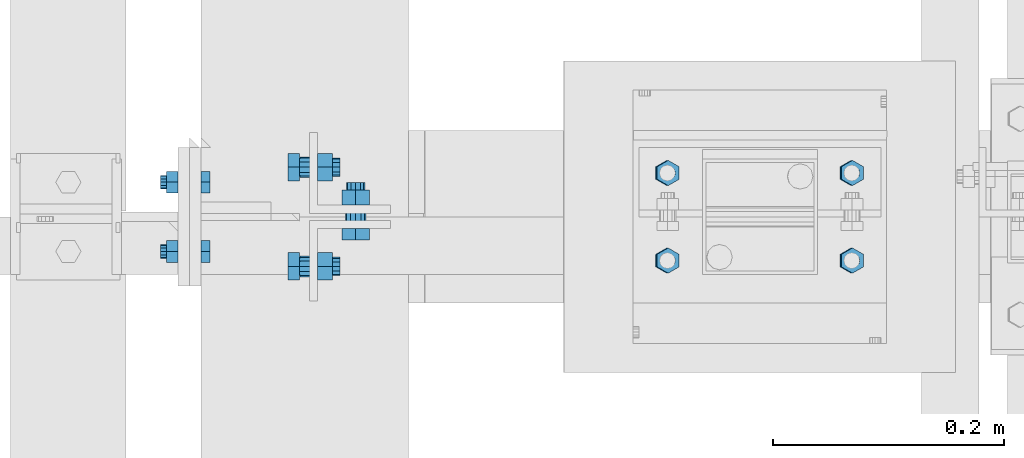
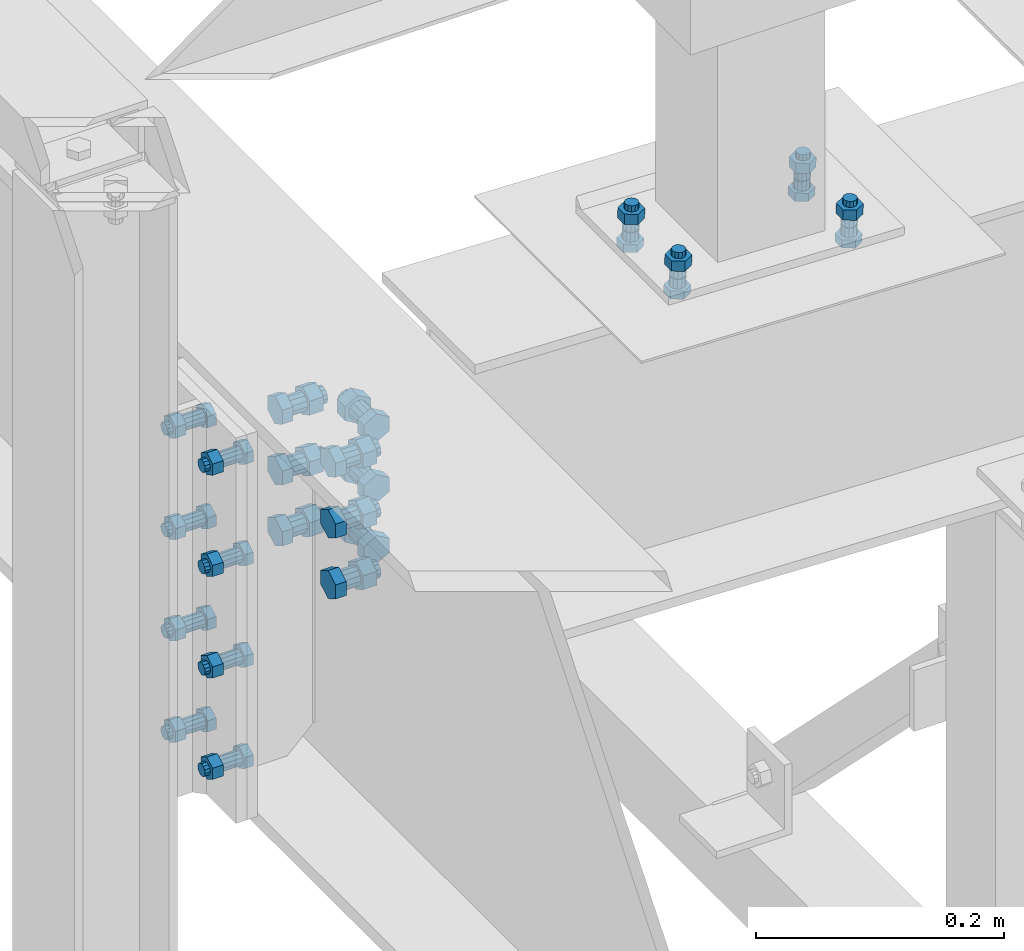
# One storey, part 59 of 3134: 5 mechanical fasteners, 4 elements without a shape of their own.
"""IFC2X3 building model written with IfcOpenShell, lengths in millimetres."""

import ifcopenshell
import ifcopenshell.guid

model = None  # the IFC model being written
_history = None  # IfcOwnerHistory: only IFC2X3 demands one
_inside = {}  # id of a spatial element -> (the spatial element, [elements in it])
_under = {}  # id of a project, library or spatial element -> (it, [spatial elements below it])
_declared = {}  # id of a project -> (the project, [libraries it declares])
_typed = {}  # id of a type object -> (the type object, [elements of that type])
_made_of = {}  # id of a material, layer set ... -> (it, [elements and type objects made of it])


def new_model(schema):
    """Start an empty IFC model of exactly this schema.

    Asked for "IFC4X3", IfcOpenShell would pick the latest addendum, in which some entities
    have other attributes; the version numbers below select the first issue.
    IFC2X3 requires an IfcOwnerHistory on every rooted entity: one is made here for all.
    """
    global model, _history
    if schema == "IFC4X3":
        model = ifcopenshell.file(schema_version=(4, 3, 0, 0))
    else:
        model = ifcopenshell.file(schema=schema)
    _inside.clear()
    _under.clear()
    _declared.clear()
    _typed.clear()
    _made_of.clear()
    _history = None
    if model.schema == "IFC2X3":
        org = make("IfcOrganization", Name="unknown")
        user = make(
            "IfcPersonAndOrganization",
            ThePerson=make("IfcPerson", FamilyName="unknown"),
            TheOrganization=org,
        )
        app = make(
            "IfcApplication",
            ApplicationDeveloper=org,
            Version="unknown",
            ApplicationFullName="unknown",
            ApplicationIdentifier="unknown",
        )
        _history = make(
            "IfcOwnerHistory",
            OwningUser=user,
            OwningApplication=app,
            ChangeAction="ADDED",
            CreationDate=0,
        )
    return model


def make(cls, **values):
    """One entity of the class cls with the attributes given. An attribute that is None is left unset."""
    return model.create_entity(
        cls, **{name: value for name, value in values.items() if value is not None}
    )


def rooted(cls, **values):
    """An entity with a GlobalId (a new one), such as an element, a storey or a relation."""
    return make(cls, GlobalId=ifcopenshell.guid.new(), OwnerHistory=_history, **values)


def si_unit(unit_type, name, prefix=None):
    """IfcSIUnit, for example si_unit("LENGTHUNIT", "METRE", prefix="MILLI")."""
    return make("IfcSIUnit", UnitType=unit_type, Prefix=prefix, Name=name)


def assignment(units):
    """IfcUnitAssignment: the units of a project."""
    return None if units is None else make("IfcUnitAssignment", Units=units)


def point(xyz):
    """IfcCartesianPoint."""
    return None if xyz is None else make("IfcCartesianPoint", Coordinates=xyz)


def direction(xyz):
    """IfcDirection."""
    return None if xyz is None else make("IfcDirection", DirectionRatios=xyz)


def frame(location, z_axis=None, x_axis=None):
    """IfcAxis2Placement3D, a coordinate frame: its origin and axes. An axis left out is left unset."""
    return make(
        "IfcAxis2Placement3D",
        Location=point(location),
        Axis=direction(z_axis),
        RefDirection=direction(x_axis),
    )


def origin_with_axes():
    """The frame at (0, 0, 0) with the z axis (0, 0, 1) and the x axis (1, 0, 0) written out."""
    return frame((0.0, 0.0, 0.0), z_axis=(0.0, 0.0, 1.0), x_axis=(1.0, 0.0, 0.0))


def place(relative_to, where):
    """IfcLocalPlacement: puts the frame where relative to a parent placement (None: the world)."""
    return make(
        "IfcLocalPlacement", PlacementRelTo=relative_to, RelativePlacement=where
    )


def context(
    kind, dimensions, precision=None, world=None, true_north=None, identifier=None
):
    """IfcGeometricRepresentationContext, for example the 3D "Model" context."""
    return make(
        "IfcGeometricRepresentationContext",
        ContextIdentifier=identifier,
        ContextType=kind,
        CoordinateSpaceDimension=dimensions,
        Precision=precision,
        WorldCoordinateSystem=world,
        TrueNorth=true_north,
    )


def subcontext(parent, identifier, kind, view, scale=None):
    """IfcGeometricRepresentationSubContext, for example "Body" below "Model"."""
    return make(
        "IfcGeometricRepresentationSubContext",
        ContextIdentifier=identifier,
        ContextType=kind,
        ParentContext=parent,
        TargetScale=scale,
        TargetView=view,
    )


def project(units=None, contexts=None):
    """IfcProject with its units and contexts."""
    return rooted(
        "IfcProject",
        Name="project",
        RepresentationContexts=contexts,
        UnitsInContext=assignment(units),
    )


def spatial(cls, under=None, at=None, **own):
    """A site, building, storey or space (cls), placed at a placement, below another one or the project."""
    s = rooted(cls, ObjectPlacement=at, **own)
    if under is not None:
        _under.setdefault(under.id(), (under, []))[1].append(s)
    return s


def faces_of(points, faces, orient=None, outer=None):
    """IfcFace entities. A face is a list of loops; a loop is a list of indices into points, from 0.

    orient and outer hold one flag for each loop. By default every Orientation is true, the
    first loop of a face is its IfcFaceOuterBound and the others are IfcFaceBound.
    """
    made = []
    for i, loops in enumerate(faces):
        bounds = []
        for j, loop in enumerate(loops):
            is_outer = j == 0 if outer is None else outer[i][j]
            bounds.append(
                make(
                    "IfcFaceOuterBound" if is_outer else "IfcFaceBound",
                    Bound=make("IfcPolyLoop", Polygon=[points[k] for k in loop]),
                    Orientation=True if orient is None else orient[i][j],
                )
            )
        made.append(make("IfcFace", Bounds=bounds))
    return made


def faceted_brep(points, faces, orient=None, outer=None, voids=None):
    """IfcFacetedBrep: a solid bounded by flat faces; with voids (closed shells), ...WithVoids."""
    shared = [point(p) for p in points]
    hull = make("IfcClosedShell", CfsFaces=faces_of(shared, faces, orient, outer))
    if voids is None:
        return make("IfcFacetedBrep", Outer=hull)
    return make(
        "IfcFacetedBrepWithVoids",
        Outer=hull,
        Voids=[
            make(cls, CfsFaces=faces_of(shared, fs, o, b)) for cls, fs, o, b in voids
        ],
    )


def shape(context_of_items, identifier, shape_type, items):
    """IfcShapeRepresentation: the items that make up one representation, for example the "Body"."""
    return make(
        "IfcShapeRepresentation",
        ContextOfItems=context_of_items,
        RepresentationIdentifier=identifier,
        RepresentationType=shape_type,
        Items=items,
    )


def source(mapping_origin, context_of_items, identifier, shape_type, items):
    """IfcRepresentationMap: a shape defined once, which mapped items show again and again."""
    return make(
        "IfcRepresentationMap",
        MappingOrigin=mapping_origin,
        MappedRepresentation=shape(context_of_items, identifier, shape_type, items),
    )


def transform(
    local_origin,
    x_axis=None,
    y_axis=None,
    z_axis=None,
    scale=None,
    scale2=None,
    scale3=None,
    uniform=True,
):
    """IfcCartesianTransformationOperator3D, or its non-uniform kind. x_axis, y_axis, z_axis: its Axis1, 2, 3."""
    if uniform:
        return make(
            "IfcCartesianTransformationOperator3D",
            Axis1=direction(x_axis),
            Axis2=direction(y_axis),
            LocalOrigin=point(local_origin),
            Scale=scale,
            Axis3=direction(z_axis),
        )
    return make(
        "IfcCartesianTransformationOperator3DnonUniform",
        Axis1=direction(x_axis),
        Axis2=direction(y_axis),
        LocalOrigin=point(local_origin),
        Scale=scale,
        Axis3=direction(z_axis),
        Scale2=scale2,
        Scale3=scale3,
    )


def mapped(mapping_source, mapping_target):
    """IfcMappedItem: shows the shape of a source again, moved by a transform."""
    return make(
        "IfcMappedItem", MappingSource=mapping_source, MappingTarget=mapping_target
    )


def material(Name=None, Category=None):
    """IfcMaterial."""
    return make("IfcMaterial", Name=Name, Category=Category)


def made_of(thing, what):
    """Note that an element or type object is made of a material, layer set ...; save() writes the relation."""
    if what is not None:
        _made_of.setdefault(what.id(), (what, []))[1].append(thing)
    return thing


def type_object(cls, material=None, **own):
    """A type object (cls), such as IfcWallType, which elements share."""
    return made_of(rooted(cls, **own), material)


def element(
    cls,
    number,
    at=None,
    inside=None,
    cuts=None,
    type_object=None,
    material=None,
    context=None,
    identifier="Body",
    shape_type=None,
    held_by="IfcProductDefinitionShape",
    body=None,
    shapes=None,
    **own,
):
    """One element of the class cls, such as IfcWall. Its Tag is "e" and its number.

    at: its placement. inside: the storey or other place that contains it. cuts: it is an
    opening in that element (IfcRelVoidsElement). A single representation is given by context,
    identifier, shape_type and body (its items); several are given by shapes. held_by: the class
    of the entity that holds the representations. save() writes the other relations.
    """
    e = rooted(cls, Tag="e%d" % number, ObjectPlacement=at, **own)
    if body is not None:
        shapes = [shape(context, identifier, shape_type, body)]
    if shapes is not None:
        e.Representation = make(held_by, Representations=shapes)
    if inside is not None:
        _inside.setdefault(inside.id(), (inside, []))[1].append(e)
    if cuts is not None:
        rooted(
            "IfcRelVoidsElement", RelatingBuildingElement=cuts, RelatedOpeningElement=e
        )
    if type_object is not None:
        _typed.setdefault(type_object.id(), (type_object, []))[1].append(e)
    return made_of(e, material)


def aggregate(whole, parts):
    """IfcRelAggregates: a whole, such as a stair, and the parts it consists of."""
    return rooted("IfcRelAggregates", RelatingObject=whole, RelatedObjects=parts)


def save(model, path):
    """Write the relations noted so far, then the file.

    IfcRelAggregates (storeys below a building ...), IfcRelContainedInSpatialStructure (elements
    in a storey), IfcRelDefinesByType, IfcRelAssociatesMaterial and IfcRelDeclares: one each for
    every whole, place, type object, material and project.
    """
    for whole, parts in _under.values():
        aggregate(whole, parts)
    for where, things in _inside.values():
        rooted(
            "IfcRelContainedInSpatialStructure",
            RelatedElements=things,
            RelatingStructure=where,
        )
    for kind, things in _typed.values():
        rooted("IfcRelDefinesByType", RelatedObjects=things, RelatingType=kind)
    for what, things in _made_of.values():
        rooted("IfcRelAssociatesMaterial", RelatedObjects=things, RelatingMaterial=what)
    for by, libraries in _declared.values():
        rooted("IfcRelDeclares", RelatingContext=by, RelatedDefinitions=libraries)
    model.write(path)


model = new_model("IFC2X3")

# Units and contexts
model_context = context("Model", 3, precision=1e-05, world=origin_with_axes())
body_context = subcontext(model_context, "Body", "Model", "MODEL_VIEW")
ifc_project = project(units=[si_unit("LENGTHUNIT", "METRE", prefix="MILLI"), si_unit("AREAUNIT", "SQUARE_METRE"), si_unit("VOLUMEUNIT", "CUBIC_METRE"), si_unit("MASSUNIT", "GRAM", prefix="KILO"), si_unit("TIMEUNIT", "SECOND"), si_unit("PLANEANGLEUNIT", "RADIAN"), si_unit("SOLIDANGLEUNIT", "STERADIAN"), si_unit("THERMODYNAMICTEMPERATUREUNIT", "DEGREE_CELSIUS"), si_unit("LUMINOUSINTENSITYUNIT", "LUMEN")], contexts=[model_context])

# Site, building, storey
site_placement = place(None, origin_with_axes())
site = spatial("IfcSite", under=ifc_project, at=site_placement, CompositionType="ELEMENT")
building_placement = place(site_placement, origin_with_axes())
building = spatial("IfcBuilding", under=site, at=building_placement, Name="Undefined", CompositionType="ELEMENT")
storey_placement = place(building_placement, origin_with_axes())
storey = spatial("IfcBuildingStorey", under=building, at=storey_placement, Name="Undefined", CompositionType="ELEMENT", Elevation=0.0)

# Assembly, mechanical fastener
assembly_1_placement = place(storey_placement, origin_with_axes())
assembly_1 = element("IfcElementAssembly", 1, at=assembly_1_placement, inside=storey, Name="IPE400", AssemblyPlace="NOTDEFINED", PredefinedType="RIGID_FRAME")
ifc_material = material(Name="8.8")
mechanical_fastener_type = type_object("IfcMechanicalFastenerType", Name="Bolt assembly")
shared_shape_1 = source(origin_with_axes(), body_context, "Body", "Brep", [
    faceted_brep([(10.9696551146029, -18.0, 0.0), (5.48482755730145, -18.0, 9.5), (-5.48482755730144, -18.0, 9.5), (-10.9696551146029, -18.0, 1.34339530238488e-15), (-5.48482755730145, -18.0, -9.5), (5.48482755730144, -18.0, -9.50000000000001), (5.48482755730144, -10.0, -9.50000000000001), (-5.48482755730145, -10.0, -9.5), (-10.9696551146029, -10.0, 1.34339530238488e-15), (-5.48482755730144, -10.0, 9.5), (5.48482755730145, -10.0, 9.5), (10.9696551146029, -10.0, 0.0), (6.0, -10.0, 0.0), (5.19615242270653, -10.0, 3.00000000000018), (2.99999999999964, -10.0, 5.19615242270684), (-6.21801588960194e-13, -10.0, 6.0), (-3.00000000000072, -10.0, 5.19615242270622), (-5.19615242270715, -10.0, 2.9999999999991), (-6.0, -10.0, -1.24360317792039e-12), (-5.19615242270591, -10.0, -3.00000000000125), (-2.99999999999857, -10.0, -5.19615242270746), (1.85874342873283e-12, -10.0, -6.0), (3.00000000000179, -10.0, -5.1961524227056), (5.19615242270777, -10.0, -2.99999999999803), (5.19615242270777, 24.9999999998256, -2.99999999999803), (3.00000000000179, 24.9999999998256, -5.1961524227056), (1.85874342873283e-12, 24.9999999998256, -6.0), (-2.99999999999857, 24.9999999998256, -5.19615242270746), (-5.19615242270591, 24.9999999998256, -3.00000000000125), (-6.0, 24.9999999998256, -1.24360317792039e-12), (-5.19615242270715, 24.9999999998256, 2.9999999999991), (-3.00000000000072, 24.9999999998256, 5.19615242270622), (-6.21801588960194e-13, 24.9999999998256, 6.0), (2.99999999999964, 24.9999999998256, 5.19615242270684), (5.19615242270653, 24.9999999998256, 3.00000000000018), (6.0, 24.9999999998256, 0.0), (10.9696551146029, 10.0, 0.0), (5.48482755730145, 10.0, 9.5), (-5.48482755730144, 10.0, 9.5), (-10.9696551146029, 10.0, 1.34339530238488e-15), (-5.48482755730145, 10.0, -9.5), (5.48482755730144, 10.0, -9.50000000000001), (5.48482755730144, 20.0, -9.50000000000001), (-5.48482755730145, 20.0, -9.5), (-10.9696551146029, 20.0, 1.34339530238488e-15), (-5.48482755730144, 20.0, 9.5), (5.48482755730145, 20.0, 9.5), (10.9696551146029, 20.0, 0.0)], [[[0, 1, 2, 3, 4, 5]], [[6, 7, 8, 9, 10, 11]], [[0, 11, 10, 1]], [[1, 10, 9, 2]], [[2, 9, 8, 3]], [[3, 8, 7, 4]], [[4, 7, 6, 5]], [[5, 6, 11, 0]], [[12, 13, 14, 15, 16, 17, 18, 19, 20, 21, 22, 23]], [[24, 25, 26, 27, 28, 29, 30, 31, 32, 33, 34, 35]], [[12, 35, 34, 13]], [[13, 34, 33, 14]], [[14, 33, 32, 15]], [[15, 32, 31, 16]], [[16, 31, 30, 17]], [[17, 30, 29, 18]], [[18, 29, 28, 19]], [[19, 28, 27, 20]], [[20, 27, 26, 21]], [[21, 26, 25, 22]], [[22, 25, 24, 23]], [[23, 24, 35, 12]], [[36, 37, 38, 39, 40, 41]], [[42, 43, 44, 45, 46, 47]], [[36, 47, 46, 37]], [[37, 46, 45, 38]], [[38, 45, 44, 39]], [[39, 44, 43, 40]], [[40, 43, 42, 41]], [[41, 42, 47, 36]]]),
    faceted_brep([(7.0, -0.1, 0.0), (6.06217782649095, -0.1, 3.50000000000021), (3.49999999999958, -0.1, 6.06217782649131), (-7.25435187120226e-13, -0.1, 7.0), (-3.50000000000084, -0.1, 6.06217782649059), (-6.06217782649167, -0.1, 3.49999999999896), (-7.0, -0.1, -1.45087037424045e-12), (-6.06217782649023, -0.1, -3.50000000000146), (-3.49999999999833, -0.1, -6.06217782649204), (2.1685340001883e-12, -0.1, -7.0), (3.50000000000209, -0.1, -6.06217782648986), (6.0621778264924, -0.1, -3.4999999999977), (6.0621778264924, 10.0, -3.4999999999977), (3.50000000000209, 10.0, -6.06217782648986), (2.1685340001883e-12, 10.0, -7.0), (-3.49999999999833, 10.0, -6.06217782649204), (-6.06217782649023, 10.0, -3.50000000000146), (-7.0, 10.0, -1.45087037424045e-12), (-6.06217782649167, 10.0, 3.49999999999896), (-3.50000000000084, 10.0, 6.06217782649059), (-7.25435187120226e-13, 10.0, 7.0), (3.49999999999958, 10.0, 6.06217782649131), (6.06217782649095, 10.0, 3.50000000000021), (7.0, 10.0, 0.0), (7.0, -9.89999913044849, 0.0), (6.06217782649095, -9.89999913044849, 3.50000000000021), (3.49999999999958, -9.89999913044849, 6.06217782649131), (-7.25435187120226e-13, -9.89999913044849, 7.0), (-3.50000000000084, -9.89999913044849, 6.06217782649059), (-6.06217782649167, -9.89999913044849, 3.49999999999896), (-7.0, -9.89999913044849, -1.45087037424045e-12), (-6.06217782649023, -9.89999913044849, -3.50000000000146), (-3.49999999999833, -9.89999913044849, -6.06217782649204), (2.1685340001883e-12, -9.89999913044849, -7.0), (3.50000000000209, -9.89999913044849, -6.06217782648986), (6.0621778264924, -9.89999913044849, -3.4999999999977), (6.0621778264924, 0.0999999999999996, -3.4999999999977), (3.50000000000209, 0.0999999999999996, -6.06217782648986), (2.1685340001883e-12, 0.0999999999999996, -7.0), (-3.49999999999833, 0.0999999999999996, -6.06217782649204), (-6.06217782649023, 0.0999999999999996, -3.50000000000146), (-7.0, 0.0999999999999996, -1.45087037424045e-12), (-6.06217782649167, 0.0999999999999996, 3.49999999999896), (-3.50000000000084, 0.0999999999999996, 6.06217782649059), (-7.25435187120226e-13, 0.0999999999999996, 7.0), (3.49999999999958, 0.0999999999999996, 6.06217782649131), (6.06217782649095, 0.0999999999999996, 3.50000000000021), (7.0, 0.0999999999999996, 0.0)], [[[0, 1, 2, 3, 4, 5, 6, 7, 8, 9, 10, 11]], [[12, 13, 14, 15, 16, 17, 18, 19, 20, 21, 22, 23]], [[0, 23, 22, 1]], [[1, 22, 21, 2]], [[2, 21, 20, 3]], [[3, 20, 19, 4]], [[4, 19, 18, 5]], [[5, 18, 17, 6]], [[6, 17, 16, 7]], [[7, 16, 15, 8]], [[8, 15, 14, 9]], [[9, 14, 13, 10]], [[10, 13, 12, 11]], [[11, 12, 23, 0]], [[24, 25, 26, 27, 28, 29, 30, 31, 32, 33, 34, 35]], [[36, 37, 38, 39, 40, 41, 42, 43, 44, 45, 46, 47]], [[24, 47, 46, 25]], [[25, 46, 45, 26]], [[26, 45, 44, 27]], [[27, 44, 43, 28]], [[28, 43, 42, 29]], [[29, 42, 41, 30]], [[30, 41, 40, 31]], [[31, 40, 39, 32]], [[32, 39, 38, 33]], [[33, 38, 37, 34]], [[34, 37, 36, 35]], [[35, 36, 47, 24]]]),
])
mechanical_fastener_1_placement = place(assembly_1_placement, frame((-100.0, 21981.25, 3990.0), z_axis=(0.0, 1.0, 0.0), x_axis=(0.0, 0.0, -1.0)))
mechanical_fastener_1 = element("IfcMechanicalFastener", 2, at=mechanical_fastener_1_placement, type_object=mechanical_fastener_type, material=ifc_material, Name="Bolt assembly", NominalDiameter=12.0, NominalLength=35.0, context=body_context, shape_type="MappedRepresentation", body=[
    mapped(shared_shape_1, transform((0.0, 4.54747350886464e-13, -30.0000000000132))),
    mapped(shared_shape_1, transform((100.0, 0.0, -30.0))),
    mapped(shared_shape_1, transform((200.0, 0.0, -30.0))),
    mapped(shared_shape_1, transform((300.0, 0.0, -30.0))),
    mapped(shared_shape_1, transform((0.0, 4.54747350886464e-13, 30.0000000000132))),
    mapped(shared_shape_1, transform((100.0, 0.0, 30.0))),
    mapped(shared_shape_1, transform((200.0, 0.0, 30.0))),
    mapped(shared_shape_1, transform((300.0, 0.0, 30.0))),
])
aggregate(assembly_1, [mechanical_fastener_1])

assembly_2_placement = place(storey_placement, origin_with_axes())
assembly_2 = element("IfcElementAssembly", 3, at=assembly_2_placement, inside=storey, AssemblyPlace="NOTDEFINED", PredefinedType="RIGID_FRAME")
shared_shape_2 = source(origin_with_axes(), body_context, "Body", "Brep", [
    faceted_brep([(13.856406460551, -18.5936482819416, 0.0), (6.92820323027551, -18.5936482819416, 12.0), (-6.92820323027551, -18.5936482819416, 12.0), (-13.856406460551, -18.5936482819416, 1.69692038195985e-15), (-6.92820323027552, -18.5936482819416, -12.0), (6.9282032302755, -18.5936482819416, -12.0), (6.9282032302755, -8.59364828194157, -12.0), (-6.92820323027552, -8.59364828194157, -12.0), (-13.856406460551, -8.59364828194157, 1.69692038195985e-15), (-6.92820323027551, -8.59364828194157, 12.0), (6.92820323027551, -8.59364828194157, 12.0), (13.856406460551, -8.59364828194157, 0.0), (8.0, -8.59364828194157, 0.0), (6.92820323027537, -8.59364828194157, 4.00000000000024), (3.99999999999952, -8.59364828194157, 6.92820323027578), (-8.29068785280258e-13, -8.59364828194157, 8.0), (-4.00000000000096, -8.59364828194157, 6.92820323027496), (-6.9282032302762, -8.59364828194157, 3.99999999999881), (-8.0, -8.59364828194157, -1.65813757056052e-12), (-6.92820323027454, -8.59364828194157, -4.00000000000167), (-3.99999999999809, -8.59364828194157, -6.92820323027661), (2.47832457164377e-12, -8.59364828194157, -8.0), (4.00000000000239, -8.59364828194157, -6.92820323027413), (6.92820323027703, -8.59364828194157, -3.99999999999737), (6.92820323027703, 26.4063517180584, -3.99999999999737), (4.00000000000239, 26.4063517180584, -6.92820323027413), (2.47832457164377e-12, 26.4063517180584, -8.0), (-3.99999999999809, 26.4063517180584, -6.92820323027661), (-6.92820323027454, 26.4063517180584, -4.00000000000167), (-8.0, 26.4063517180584, -1.65813757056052e-12), (-6.9282032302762, 26.4063517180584, 3.99999999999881), (-4.00000000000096, 26.4063517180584, 6.92820323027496), (-8.29068785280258e-13, 26.4063517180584, 8.0), (3.99999999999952, 26.4063517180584, 6.92820323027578), (6.92820323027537, 26.4063517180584, 4.00000000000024), (8.0, 26.4063517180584, 0.0), (13.856406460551, 7.0, 0.0), (6.92820323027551, 7.0, 12.0), (-6.92820323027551, 7.0, 12.0), (-13.856406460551, 7.0, 1.69692038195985e-15), (-6.92820323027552, 7.0, -12.0), (6.9282032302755, 7.0, -12.0), (6.9282032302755, 20.0, -12.0), (-6.92820323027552, 20.0, -12.0), (-13.856406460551, 20.0, 1.69692038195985e-15), (-6.92820323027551, 20.0, 12.0), (6.92820323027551, 20.0, 12.0), (13.856406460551, 20.0, 0.0)], [[[0, 1, 2, 3, 4, 5]], [[6, 7, 8, 9, 10, 11]], [[0, 11, 10, 1]], [[1, 10, 9, 2]], [[2, 9, 8, 3]], [[3, 8, 7, 4]], [[4, 7, 6, 5]], [[5, 6, 11, 0]], [[12, 13, 14, 15, 16, 17, 18, 19, 20, 21, 22, 23]], [[24, 25, 26, 27, 28, 29, 30, 31, 32, 33, 34, 35]], [[12, 35, 34, 13]], [[13, 34, 33, 14]], [[14, 33, 32, 15]], [[15, 32, 31, 16]], [[16, 31, 30, 17]], [[17, 30, 29, 18]], [[18, 29, 28, 19]], [[19, 28, 27, 20]], [[20, 27, 26, 21]], [[21, 26, 25, 22]], [[22, 25, 24, 23]], [[23, 24, 35, 12]], [[36, 37, 38, 39, 40, 41]], [[42, 43, 44, 45, 46, 47]], [[36, 47, 46, 37]], [[37, 46, 45, 38]], [[38, 45, 44, 39]], [[39, 44, 43, 40]], [[40, 43, 42, 41]], [[41, 42, 47, 36]]]),
    faceted_brep([(9.0, -8.49364828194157, 0.0), (7.79422863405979, -8.49364828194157, 4.50000000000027), (4.49999999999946, -8.49364828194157, 7.79422863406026), (-9.3270238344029e-13, -8.49364828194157, 9.0), (-4.50000000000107, -8.49364828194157, 7.79422863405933), (-7.79422863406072, -8.49364828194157, 4.49999999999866), (-9.0, -8.49364828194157, -1.86540476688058e-12), (-7.79422863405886, -8.49364828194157, -4.50000000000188), (-4.49999999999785, -8.49364828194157, -7.79422863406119), (2.78811514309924e-12, -8.49364828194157, -9.0), (4.50000000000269, -8.49364828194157, -7.7942286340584), (7.79422863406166, -8.49364828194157, -4.49999999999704), (7.79422863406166, 0.10635209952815, -4.49999999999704), (4.50000000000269, 0.10635209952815, -7.7942286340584), (2.78811514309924e-12, 0.10635209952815, -9.0), (-4.49999999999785, 0.10635209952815, -7.79422863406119), (-7.79422863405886, 0.10635209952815, -4.50000000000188), (-9.0, 0.10635209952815, -1.86540476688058e-12), (-7.79422863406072, 0.10635209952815, 4.49999999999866), (-4.50000000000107, 0.10635209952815, 7.79422863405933), (-9.3270238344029e-13, 0.10635209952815, 9.0), (4.49999999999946, 0.10635209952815, 7.79422863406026), (7.79422863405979, 0.10635209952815, 4.50000000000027), (9.0, 0.10635209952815, 0.0), (9.0, -0.1, 0.0), (7.79422863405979, -0.1, 4.50000000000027), (4.49999999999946, -0.1, 7.79422863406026), (-9.3270238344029e-13, -0.1, 9.0), (-4.50000000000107, -0.1, 7.79422863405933), (-7.79422863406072, -0.1, 4.49999999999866), (-9.0, -0.1, -1.86540476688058e-12), (-7.79422863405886, -0.1, -4.50000000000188), (-4.49999999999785, -0.1, -7.79422863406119), (2.78811514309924e-12, -0.1, -9.0), (4.50000000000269, -0.1, -7.7942286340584), (7.79422863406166, -0.1, -4.49999999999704), (7.79422863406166, 7.0, -4.49999999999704), (4.50000000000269, 7.0, -7.7942286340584), (2.78811514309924e-12, 7.0, -9.0), (-4.49999999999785, 7.0, -7.79422863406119), (-7.79422863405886, 7.0, -4.50000000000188), (-9.0, 7.0, -1.86540476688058e-12), (-7.79422863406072, 7.0, 4.49999999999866), (-4.50000000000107, 7.0, 7.79422863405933), (-9.3270238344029e-13, 7.0, 9.0), (4.49999999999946, 7.0, 7.79422863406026), (7.79422863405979, 7.0, 4.50000000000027), (9.0, 7.0, 0.0)], [[[0, 1, 2, 3, 4, 5, 6, 7, 8, 9, 10, 11]], [[12, 13, 14, 15, 16, 17, 18, 19, 20, 21, 22, 23]], [[0, 23, 22, 1]], [[1, 22, 21, 2]], [[2, 21, 20, 3]], [[3, 20, 19, 4]], [[4, 19, 18, 5]], [[5, 18, 17, 6]], [[6, 17, 16, 7]], [[7, 16, 15, 8]], [[8, 15, 14, 9]], [[9, 14, 13, 10]], [[10, 13, 12, 11]], [[11, 12, 23, 0]], [[24, 25, 26, 27, 28, 29, 30, 31, 32, 33, 34, 35]], [[36, 37, 38, 39, 40, 41, 42, 43, 44, 45, 46, 47]], [[24, 47, 46, 25]], [[25, 46, 45, 26]], [[26, 45, 44, 27]], [[27, 44, 43, 28]], [[28, 43, 42, 29]], [[29, 42, 41, 30]], [[30, 41, 40, 31]], [[31, 40, 39, 32]], [[32, 39, 38, 33]], [[33, 38, 37, 34]], [[34, 37, 36, 35]], [[35, 36, 47, 24]]]),
])
mechanical_fastener_2_placement = place(assembly_2_placement, frame((4.29364809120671, 22024.29, 3841.86727512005), z_axis=(0.0, 1.0, 0.0), x_axis=(0.0, 0.0, 1.0)))
mechanical_fastener_2 = element("IfcMechanicalFastener", 4, at=mechanical_fastener_2_placement, type_object=mechanical_fastener_type, material=ifc_material, Name="Bolt assembly", NominalDiameter=16.0, NominalLength=35.0, context=body_context, shape_type="MappedRepresentation", body=[
    mapped(shared_shape_2, transform((0.0, 0.0, 0.0))),
    mapped(shared_shape_2, transform((59.9999999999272, 0.0, 5.40239852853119e-10))),
    mapped(shared_shape_2, transform((120.0, 0.0, 0.0))),
])
aggregate(assembly_2, [mechanical_fastener_2])

# Assembly, mechanical fasteners
assembly_3_placement = place(storey_placement, origin_with_axes())
assembly_3 = element("IfcElementAssembly", 5, at=assembly_3_placement, inside=storey, AssemblyPlace="NOTDEFINED", PredefinedType="RIGID_FRAME")
mechanical_fastener_3_placement = place(assembly_3_placement, frame((4.29364809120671, 21938.21, 3841.86727512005), z_axis=(0.0, 1.0, 0.0), x_axis=(0.0, 0.0, 1.0)))
mechanical_fastener_3 = element("IfcMechanicalFastener", 6, at=mechanical_fastener_3_placement, type_object=mechanical_fastener_type, material=ifc_material, Name="Bolt assembly", NominalDiameter=16.0, NominalLength=35.0, context=body_context, shape_type="MappedRepresentation", body=[
    mapped(shared_shape_2, transform((0.0, 0.0, 0.0))),
    mapped(shared_shape_2, transform((59.9999999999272, 0.0, 5.40239852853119e-10))),
    mapped(shared_shape_2, transform((120.0, 0.0, 0.0))),
])
shared_shape_3 = source(origin_with_axes(), body_context, "Body", "Brep", [
    faceted_brep([(13.856406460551, -20.0400000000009, 0.0), (6.92820323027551, -20.0400000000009, 12.0), (-6.92820323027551, -20.0400000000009, 12.0), (-13.856406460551, -20.0400000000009, 1.69692038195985e-15), (-6.92820323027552, -20.0400000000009, -12.0), (6.9282032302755, -20.0400000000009, -12.0), (6.9282032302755, -10.0400000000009, -12.0), (-6.92820323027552, -10.0400000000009, -12.0), (-13.856406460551, -10.0400000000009, 1.69692038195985e-15), (-6.92820323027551, -10.0400000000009, 12.0), (6.92820323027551, -10.0400000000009, 12.0), (13.856406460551, -10.0400000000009, 0.0), (8.0, -10.0400000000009, 0.0), (6.92820323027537, -10.0400000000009, 4.00000000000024), (3.99999999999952, -10.0400000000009, 6.92820323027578), (-8.29068785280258e-13, -10.0400000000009, 8.0), (-4.00000000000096, -10.0400000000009, 6.92820323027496), (-6.9282032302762, -10.0400000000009, 3.99999999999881), (-8.0, -10.0400000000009, -1.65813757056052e-12), (-6.92820323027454, -10.0400000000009, -4.00000000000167), (-3.99999999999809, -10.0400000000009, -6.92820323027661), (2.47832457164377e-12, -10.0400000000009, -8.0), (4.00000000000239, -10.0400000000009, -6.92820323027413), (6.92820323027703, -10.0400000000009, -3.99999999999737), (6.92820323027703, 29.9599999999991, -3.99999999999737), (4.00000000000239, 29.9599999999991, -6.92820323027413), (2.47832457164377e-12, 29.9599999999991, -8.0), (-3.99999999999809, 29.9599999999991, -6.92820323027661), (-6.92820323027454, 29.9599999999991, -4.00000000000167), (-8.0, 29.9599999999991, -1.65813757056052e-12), (-6.9282032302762, 29.9599999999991, 3.99999999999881), (-4.00000000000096, 29.9599999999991, 6.92820323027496), (-8.29068785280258e-13, 29.9599999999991, 8.0), (3.99999999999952, 29.9599999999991, 6.92820323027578), (6.92820323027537, 29.9599999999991, 4.00000000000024), (8.0, 29.9599999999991, 0.0), (13.856406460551, 10.0400000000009, 0.0), (6.92820323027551, 10.0400000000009, 12.0), (-6.92820323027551, 10.0400000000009, 12.0), (-13.856406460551, 10.0400000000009, 1.69692038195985e-15), (-6.92820323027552, 10.0400000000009, -12.0), (6.9282032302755, 10.0400000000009, -12.0), (6.9282032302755, 23.0400000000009, -12.0), (-6.92820323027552, 23.0400000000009, -12.0), (-13.856406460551, 23.0400000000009, 1.69692038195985e-15), (-6.92820323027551, 23.0400000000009, 12.0), (6.92820323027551, 23.0400000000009, 12.0), (13.856406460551, 23.0400000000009, 0.0)], [[[0, 1, 2, 3, 4, 5]], [[6, 7, 8, 9, 10, 11]], [[0, 11, 10, 1]], [[1, 10, 9, 2]], [[2, 9, 8, 3]], [[3, 8, 7, 4]], [[4, 7, 6, 5]], [[5, 6, 11, 0]], [[12, 13, 14, 15, 16, 17, 18, 19, 20, 21, 22, 23]], [[24, 25, 26, 27, 28, 29, 30, 31, 32, 33, 34, 35]], [[12, 35, 34, 13]], [[13, 34, 33, 14]], [[14, 33, 32, 15]], [[15, 32, 31, 16]], [[16, 31, 30, 17]], [[17, 30, 29, 18]], [[18, 29, 28, 19]], [[19, 28, 27, 20]], [[20, 27, 26, 21]], [[21, 26, 25, 22]], [[22, 25, 24, 23]], [[23, 24, 35, 12]], [[36, 37, 38, 39, 40, 41]], [[42, 43, 44, 45, 46, 47]], [[36, 47, 46, 37]], [[37, 46, 45, 38]], [[38, 45, 44, 39]], [[39, 44, 43, 40]], [[40, 43, 42, 41]], [[41, 42, 47, 36]]]),
    faceted_brep([(9.0, -3.04999995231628, 0.0), (7.79422863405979, -3.04999995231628, 4.50000000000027), (4.49999999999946, -3.04999995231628, 7.79422863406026), (-9.3270238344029e-13, -3.04999995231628, 9.0), (-4.50000000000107, -3.04999995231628, 7.79422863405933), (-7.79422863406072, -3.04999995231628, 4.49999999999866), (-9.0, -3.04999995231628, -1.86540476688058e-12), (-7.79422863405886, -3.04999995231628, -4.50000000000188), (-4.49999999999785, -3.04999995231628, -7.79422863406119), (2.78811514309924e-12, -3.04999995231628, -9.0), (4.50000000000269, -3.04999995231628, -7.7942286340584), (7.79422863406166, -3.04999995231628, -4.49999999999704), (7.79422863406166, 3.04999995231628, -4.49999999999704), (4.50000000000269, 3.04999995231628, -7.7942286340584), (2.78811514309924e-12, 3.04999995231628, -9.0), (-4.49999999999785, 3.04999995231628, -7.79422863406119), (-7.79422863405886, 3.04999995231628, -4.50000000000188), (-9.0, 3.04999995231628, -1.86540476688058e-12), (-7.79422863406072, 3.04999995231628, 4.49999999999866), (-4.50000000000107, 3.04999995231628, 7.79422863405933), (-9.3270238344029e-13, 3.04999995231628, 9.0), (4.49999999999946, 3.04999995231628, 7.79422863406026), (7.79422863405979, 3.04999995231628, 4.50000000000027), (9.0, 3.04999995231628, 0.0), (9.0, -9.94000000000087, 0.0), (7.79422863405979, -9.94000000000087, 4.50000000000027), (4.49999999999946, -9.94000000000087, 7.79422863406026), (-9.3270238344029e-13, -9.94000000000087, 9.0), (-4.50000000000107, -9.94000000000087, 7.79422863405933), (-7.79422863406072, -9.94000000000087, 4.49999999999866), (-9.0, -9.94000000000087, -1.86540476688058e-12), (-7.79422863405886, -9.94000000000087, -4.50000000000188), (-4.49999999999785, -9.94000000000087, -7.79422863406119), (2.78811514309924e-12, -9.94000000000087, -9.0), (4.50000000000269, -9.94000000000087, -7.7942286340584), (7.79422863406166, -9.94000000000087, -4.49999999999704), (7.79422863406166, -2.94000000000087, -4.49999999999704), (4.50000000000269, -2.94000000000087, -7.7942286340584), (2.78811514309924e-12, -2.94000000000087, -9.0), (-4.49999999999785, -2.94000000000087, -7.79422863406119), (-7.79422863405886, -2.94000000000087, -4.50000000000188), (-9.0, -2.94000000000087, -1.86540476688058e-12), (-7.79422863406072, -2.94000000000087, 4.49999999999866), (-4.50000000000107, -2.94000000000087, 7.79422863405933), (-9.3270238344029e-13, -2.94000000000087, 9.0), (4.49999999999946, -2.94000000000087, 7.79422863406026), (7.79422863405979, -2.94000000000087, 4.50000000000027), (9.0, -2.94000000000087, 0.0), (9.0, 2.94000000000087, 0.0), (7.79422863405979, 2.94000000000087, 4.50000000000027), (4.49999999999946, 2.94000000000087, 7.79422863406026), (-9.3270238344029e-13, 2.94000000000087, 9.0), (-4.50000000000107, 2.94000000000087, 7.79422863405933), (-7.79422863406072, 2.94000000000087, 4.49999999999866), (-9.0, 2.94000000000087, -1.86540476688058e-12), (-7.79422863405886, 2.94000000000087, -4.50000000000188), (-4.49999999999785, 2.94000000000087, -7.79422863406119), (2.78811514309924e-12, 2.94000000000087, -9.0), (4.50000000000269, 2.94000000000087, -7.7942286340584), (7.79422863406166, 2.94000000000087, -4.49999999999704), (7.79422863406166, 10.0400000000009, -4.49999999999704), (4.50000000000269, 10.0400000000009, -7.7942286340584), (2.78811514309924e-12, 10.0400000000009, -9.0), (-4.49999999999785, 10.0400000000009, -7.79422863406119), (-7.79422863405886, 10.0400000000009, -4.50000000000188), (-9.0, 10.0400000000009, -1.86540476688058e-12), (-7.79422863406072, 10.0400000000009, 4.49999999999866), (-4.50000000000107, 10.0400000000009, 7.79422863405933), (-9.3270238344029e-13, 10.0400000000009, 9.0), (4.49999999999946, 10.0400000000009, 7.79422863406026), (7.79422863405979, 10.0400000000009, 4.50000000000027), (9.0, 10.0400000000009, 0.0)], [[[0, 1, 2, 3, 4, 5, 6, 7, 8, 9, 10, 11]], [[12, 13, 14, 15, 16, 17, 18, 19, 20, 21, 22, 23]], [[0, 23, 22, 1]], [[1, 22, 21, 2]], [[2, 21, 20, 3]], [[3, 20, 19, 4]], [[4, 19, 18, 5]], [[5, 18, 17, 6]], [[6, 17, 16, 7]], [[7, 16, 15, 8]], [[8, 15, 14, 9]], [[9, 14, 13, 10]], [[10, 13, 12, 11]], [[11, 12, 23, 0]], [[24, 25, 26, 27, 28, 29, 30, 31, 32, 33, 34, 35]], [[36, 37, 38, 39, 40, 41, 42, 43, 44, 45, 46, 47]], [[24, 47, 46, 25]], [[25, 46, 45, 26]], [[26, 45, 44, 27]], [[27, 44, 43, 28]], [[28, 43, 42, 29]], [[29, 42, 41, 30]], [[30, 41, 40, 31]], [[31, 40, 39, 32]], [[32, 39, 38, 33]], [[33, 38, 37, 34]], [[34, 37, 36, 35]], [[35, 36, 47, 24]], [[48, 49, 50, 51, 52, 53, 54, 55, 56, 57, 58, 59]], [[60, 61, 62, 63, 64, 65, 66, 67, 68, 69, 70, 71]], [[48, 71, 70, 49]], [[49, 70, 69, 50]], [[50, 69, 68, 51]], [[51, 68, 67, 52]], [[52, 67, 66, 53]], [[53, 66, 65, 54]], [[54, 65, 64, 55]], [[55, 64, 63, 56]], [[56, 63, 62, 57]], [[57, 62, 61, 58]], [[58, 61, 60, 59]], [[59, 60, 71, 48]]]),
])
mechanical_fastener_4_placement = place(assembly_3_placement, frame((44.2936480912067, 21981.25, 3841.86727512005), z_axis=(-1.0, 0.0, 0.0), x_axis=(0.0, 0.0, 1.0)))
mechanical_fastener_4 = element("IfcMechanicalFastener", 7, at=mechanical_fastener_4_placement, type_object=mechanical_fastener_type, material=ifc_material, Name="Bolt assembly", NominalDiameter=16.0, NominalLength=40.0, context=body_context, shape_type="MappedRepresentation", body=[
    mapped(shared_shape_3, transform((0.0, 0.0, 0.0))),
    mapped(shared_shape_3, transform((59.9999999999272, 0.0, 5.40239852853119e-10))),
    mapped(shared_shape_3, transform((120.0, 0.0, 0.0))),
])
aggregate(assembly_3, [mechanical_fastener_3, mechanical_fastener_4])

# Assembly, mechanical fastener
assembly_4_placement = place(storey_placement, origin_with_axes())
assembly_4 = element("IfcElementAssembly", 8, at=assembly_4_placement, inside=storey, AssemblyPlace="NOTDEFINED", PredefinedType="RIGID_FRAME")
shared_shape_4 = source(origin_with_axes(), body_context, "Body", "Brep", [
    faceted_brep([(10.9696551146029, -4.19432770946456, 0.0), (5.48482755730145, -4.19432770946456, 9.5), (-5.48482755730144, -4.19432770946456, 9.5), (-10.9696551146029, -4.19432770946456, 1.34339530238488e-15), (-5.48482755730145, -4.19432770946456, -9.5), (5.48482755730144, -4.19432770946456, -9.50000000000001), (5.48482755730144, 3.80567229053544, -9.50000000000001), (-5.48482755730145, 3.80567229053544, -9.5), (-10.9696551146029, 3.80567229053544, 1.34339530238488e-15), (-5.48482755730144, 3.80567229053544, 9.5), (5.48482755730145, 3.80567229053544, 9.5), (10.9696551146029, 3.80567229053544, 0.0), (6.0, 3.80567229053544, 0.0), (5.19615242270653, 3.80567229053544, 3.00000000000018), (2.99999999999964, 3.80567229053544, 5.19615242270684), (-6.21801588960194e-13, 3.80567229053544, 6.0), (-3.00000000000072, 3.80567229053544, 5.19615242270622), (-5.19615242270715, 3.80567229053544, 2.9999999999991), (-6.0, 3.80567229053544, -1.24360317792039e-12), (-5.19615242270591, 3.80567229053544, -3.00000000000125), (-2.99999999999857, 3.80567229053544, -5.19615242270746), (1.85874342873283e-12, 3.80567229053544, -6.0), (3.00000000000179, 3.80567229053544, -5.1961524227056), (5.19615242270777, 3.80567229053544, -2.99999999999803), (5.19615242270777, 38.8056722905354, -2.99999999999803), (3.00000000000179, 38.8056722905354, -5.1961524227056), (1.85874342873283e-12, 38.8056722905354, -6.0), (-2.99999999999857, 38.8056722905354, -5.19615242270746), (-5.19615242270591, 38.8056722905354, -3.00000000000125), (-6.0, 38.8056722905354, -1.24360317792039e-12), (-5.19615242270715, 38.8056722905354, 2.9999999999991), (-3.00000000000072, 38.8056722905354, 5.19615242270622), (-6.21801588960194e-13, 38.8056722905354, 6.0), (2.99999999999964, 38.8056722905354, 5.19615242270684), (5.19615242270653, 38.8056722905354, 3.00000000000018), (6.0, 38.8056722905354, 0.0), (10.9696551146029, 23.0139082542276, 0.0), (5.48482755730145, 23.0139082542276, 9.5), (-5.48482755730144, 23.0139082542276, 9.5), (-10.9696551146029, 23.0139082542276, 1.34339530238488e-15), (-5.48482755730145, 23.0139082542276, -9.5), (5.48482755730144, 23.0139082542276, -9.50000000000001), (5.48482755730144, 33.0139082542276, -9.50000000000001), (-5.48482755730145, 33.0139082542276, -9.5), (-10.9696551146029, 33.0139082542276, 1.34339530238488e-15), (-5.48482755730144, 33.0139082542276, 9.5), (5.48482755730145, 33.0139082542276, 9.5), (10.9696551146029, 33.0139082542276, 0.0)], [[[0, 1, 2, 3, 4, 5]], [[6, 7, 8, 9, 10, 11]], [[0, 11, 10, 1]], [[1, 10, 9, 2]], [[2, 9, 8, 3]], [[3, 8, 7, 4]], [[4, 7, 6, 5]], [[5, 6, 11, 0]], [[12, 13, 14, 15, 16, 17, 18, 19, 20, 21, 22, 23]], [[24, 25, 26, 27, 28, 29, 30, 31, 32, 33, 34, 35]], [[12, 35, 34, 13]], [[13, 34, 33, 14]], [[14, 33, 32, 15]], [[15, 32, 31, 16]], [[16, 31, 30, 17]], [[17, 30, 29, 18]], [[18, 29, 28, 19]], [[19, 28, 27, 20]], [[20, 27, 26, 21]], [[21, 26, 25, 22]], [[22, 25, 24, 23]], [[23, 24, 35, 12]], [[36, 37, 38, 39, 40, 41]], [[42, 43, 44, 45, 46, 47]], [[36, 47, 46, 37]], [[37, 46, 45, 38]], [[38, 45, 44, 39]], [[39, 44, 43, 40]], [[40, 43, 42, 41]], [[41, 42, 47, 36]]]),
    faceted_brep([(7.0, 3.90567229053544, 0.0), (6.06217782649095, 3.90567229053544, 3.50000000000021), (3.49999999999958, 3.90567229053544, 6.06217782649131), (-7.25435187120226e-13, 3.90567229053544, 7.0), (-3.50000000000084, 3.90567229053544, 6.06217782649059), (-6.06217782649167, 3.90567229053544, 3.49999999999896), (-7.0, 3.90567229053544, -1.45087037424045e-12), (-6.06217782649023, 3.90567229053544, -3.50000000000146), (-3.49999999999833, 3.90567229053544, -6.06217782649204), (2.1685340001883e-12, 3.90567229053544, -7.0), (3.50000000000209, 3.90567229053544, -6.06217782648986), (6.0621778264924, 3.90567229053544, -3.4999999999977), (6.0621778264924, 13.1056721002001, -3.4999999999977), (3.50000000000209, 13.1056721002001, -6.06217782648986), (2.1685340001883e-12, 13.1056721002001, -7.0), (-3.49999999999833, 13.1056721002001, -6.06217782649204), (-6.06217782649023, 13.1056721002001, -3.50000000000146), (-7.0, 13.1056721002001, -1.45087037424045e-12), (-6.06217782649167, 13.1056721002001, 3.49999999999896), (-3.50000000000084, 13.1056721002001, 6.06217782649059), (-7.25435187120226e-13, 13.1056721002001, 7.0), (3.49999999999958, 13.1056721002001, 6.06217782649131), (6.06217782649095, 13.1056721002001, 3.50000000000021), (7.0, 13.1056721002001, 0.0), (7.0, 14.9139082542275, 0.0), (6.06217782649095, 14.9139082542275, 3.50000000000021), (3.49999999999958, 14.9139082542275, 6.06217782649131), (-7.25435187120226e-13, 14.9139082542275, 7.0), (-3.50000000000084, 14.9139082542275, 6.06217782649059), (-6.06217782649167, 14.9139082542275, 3.49999999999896), (-7.0, 14.9139082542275, -1.45087037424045e-12), (-6.06217782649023, 14.9139082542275, -3.50000000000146), (-3.49999999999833, 14.9139082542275, -6.06217782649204), (2.1685340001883e-12, 14.9139082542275, -7.0), (3.50000000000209, 14.9139082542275, -6.06217782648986), (6.0621778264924, 14.9139082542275, -3.4999999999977), (6.0621778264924, 23.0139082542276, -3.4999999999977), (3.50000000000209, 23.0139082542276, -6.06217782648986), (2.1685340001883e-12, 23.0139082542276, -7.0), (-3.49999999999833, 23.0139082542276, -6.06217782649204), (-6.06217782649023, 23.0139082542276, -3.50000000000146), (-7.0, 23.0139082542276, -1.45087037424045e-12), (-6.06217782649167, 23.0139082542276, 3.49999999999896), (-3.50000000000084, 23.0139082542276, 6.06217782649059), (-7.25435187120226e-13, 23.0139082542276, 7.0), (3.49999999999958, 23.0139082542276, 6.06217782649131), (6.06217782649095, 23.0139082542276, 3.50000000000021), (7.0, 23.0139082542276, 0.0)], [[[0, 1, 2, 3, 4, 5, 6, 7, 8, 9, 10, 11]], [[12, 13, 14, 15, 16, 17, 18, 19, 20, 21, 22, 23]], [[0, 23, 22, 1]], [[1, 22, 21, 2]], [[2, 21, 20, 3]], [[3, 20, 19, 4]], [[4, 19, 18, 5]], [[5, 18, 17, 6]], [[6, 17, 16, 7]], [[7, 16, 15, 8]], [[8, 15, 14, 9]], [[9, 14, 13, 10]], [[10, 13, 12, 11]], [[11, 12, 23, 0]], [[24, 25, 26, 27, 28, 29, 30, 31, 32, 33, 34, 35]], [[36, 37, 38, 39, 40, 41, 42, 43, 44, 45, 46, 47]], [[24, 47, 46, 25]], [[25, 46, 45, 26]], [[26, 45, 44, 27]], [[27, 44, 43, 28]], [[28, 43, 42, 29]], [[29, 42, 41, 30]], [[30, 41, 40, 31]], [[31, 40, 39, 32]], [[32, 39, 38, 33]], [[33, 38, 37, 34]], [[34, 37, 36, 35]], [[35, 36, 47, 24]]]),
])
mechanical_fastener_5_placement = place(assembly_4_placement, frame((394.193176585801, 22019.2499999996, 4013.19000668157), z_axis=(-0.999387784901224, 0.0, 0.0349865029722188), x_axis=(0.0, -1.0, 0.0)))
mechanical_fastener_5 = element("IfcMechanicalFastener", 9, at=mechanical_fastener_5_placement, type_object=mechanical_fastener_type, material=ifc_material, Name="Bolt assembly", NominalDiameter=12.0, NominalLength=35.0, context=body_context, shape_type="MappedRepresentation", body=[
    mapped(shared_shape_4, transform((0.0, -5.32963895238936e-10, -79.9999999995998))),
    mapped(shared_shape_4, transform((76.0, -5.32963895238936e-10, -79.9999999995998))),
    mapped(shared_shape_4, transform((0.0, 5.3114490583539e-10, 79.9999999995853))),
    mapped(shared_shape_4, transform((76.0, 5.3114490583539e-10, 79.9999999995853))),
])
aggregate(assembly_4, [mechanical_fastener_5])

save(model, "model.ifc")
